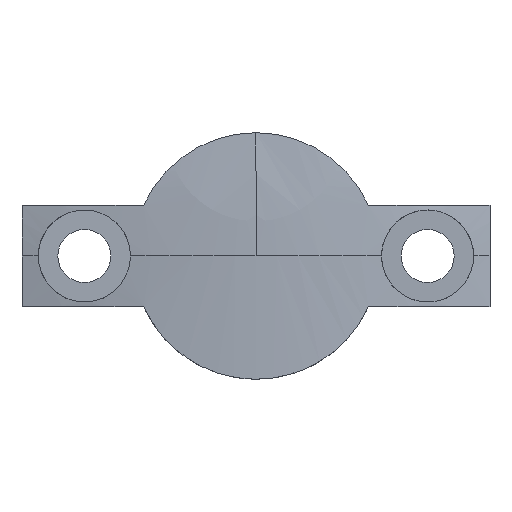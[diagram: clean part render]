
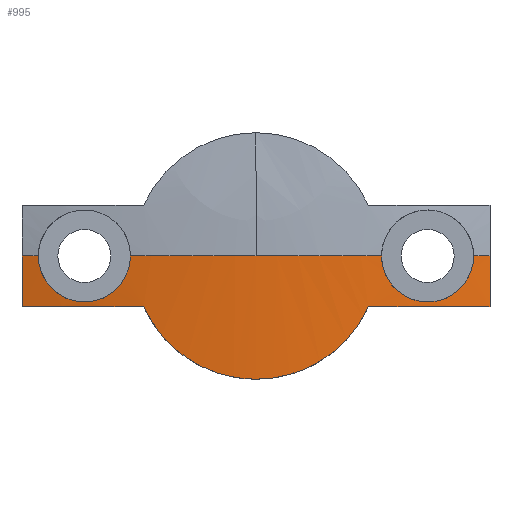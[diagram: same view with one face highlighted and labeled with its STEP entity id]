
A CAD part, top view. The second image highlights one B-rep face of the part: STEP entity #995.
In plain terms, the highlighted cylindrical face has radius 55 mm (diameter 110 mm), a partial arc.
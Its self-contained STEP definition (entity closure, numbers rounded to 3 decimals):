
#341=CARTESIAN_POINT('',(-8.05,0.,3.408));
#342=CARTESIAN_POINT('',(-8.05,-0.193,3.408));
#343=CARTESIAN_POINT('',(-8.087,-0.571,
3.402));
#344=CARTESIAN_POINT('',(-8.252,-1.125,3.378));
#345=CARTESIAN_POINT('',(-8.523,-1.637,3.336));
#346=CARTESIAN_POINT('',(-8.882,-2.08,3.279));
#347=CARTESIAN_POINT('',(-9.321,-2.449,3.205));
#348=CARTESIAN_POINT('',(-9.837,-2.732,3.114));
#349=CARTESIAN_POINT('',(-10.391,-2.907,3.011));
#350=CARTESIAN_POINT('',(-11.01,-2.971,2.888));
#351=CARTESIAN_POINT('',(-11.605,-2.907,2.763));
#352=CARTESIAN_POINT('',(-12.177,-2.728,2.636));
#353=CARTESIAN_POINT('',(-12.71,-2.429,2.512));
#354=CARTESIAN_POINT('',(-13.15,-2.047,2.405));
#355=CARTESIAN_POINT('',(-13.499,-1.601,2.318));
#356=CARTESIAN_POINT('',(-13.75,-1.114,2.254));
#357=CARTESIAN_POINT('',(-13.911,-0.581,
2.212));
#358=CARTESIAN_POINT('',(-13.95,-0.198,2.201));
#359=CARTESIAN_POINT('',(-13.95,0.,2.201));
#364=CARTESIAN_POINT('',(13.95,0.,2.201));
#365=CARTESIAN_POINT('',(13.95,-0.182,2.201));
#366=CARTESIAN_POINT('',(13.917,-0.542,2.21));
#367=CARTESIAN_POINT('',(13.764,-1.08,2.25));
#368=CARTESIAN_POINT('',(13.516,-1.573,2.314));
#369=CARTESIAN_POINT('',(13.175,-2.019,2.399));
#370=CARTESIAN_POINT('',(12.77,-2.381,2.498));
#371=CARTESIAN_POINT('',(12.307,-2.664,2.606));
#372=CARTESIAN_POINT('',(11.795,-2.857,2.721));
#373=CARTESIAN_POINT('',(11.286,-2.952,2.831));
#374=CARTESIAN_POINT('',(10.743,-2.956,2.942));
#375=CARTESIAN_POINT('',(10.201,-2.857,3.047));
#376=CARTESIAN_POINT('',(9.695,-2.664,3.14));
#377=CARTESIAN_POINT('',(9.226,-2.378,3.221));
#378=CARTESIAN_POINT('',(8.819,-2.011,3.289));
#379=CARTESIAN_POINT('',(8.487,-1.578,3.342));
#380=CARTESIAN_POINT('',(8.235,-1.077,3.38));
#381=CARTESIAN_POINT('',(8.083,-0.544,3.403));
#382=CARTESIAN_POINT('',(8.05,-0.183,3.408));
#383=CARTESIAN_POINT('',(8.05,0.,3.408));
#388=DIRECTION('',(0.,1.,0.));
#389=VECTOR('',#388,3.25);
#390=CARTESIAN_POINT('',(15.,-3.25,1.915));
#391=LINE('',#390,#389);
#395=CARTESIAN_POINT('',(0.,-7.9,4.));
#396=CARTESIAN_POINT('',(0.394,-7.9,4.));
#397=CARTESIAN_POINT('',(1.157,-7.845,3.992));
#398=CARTESIAN_POINT('',(2.301,-7.582,3.955));
#399=CARTESIAN_POINT('',(3.215,-7.243,3.909));
#400=CARTESIAN_POINT('',(4.29,-6.673,3.836));
#401=CARTESIAN_POINT('',(5.248,-5.942,3.751));
#402=CARTESIAN_POINT('',(6.04,-5.135,3.669));
#403=CARTESIAN_POINT('',(6.709,-4.221,3.59));
#404=CARTESIAN_POINT('',(7.051,-3.581,3.546));
#405=CARTESIAN_POINT('',(7.201,-3.25,3.527));
#410=DIRECTION('',(0.,-1.,0.));
#411=VECTOR('',#410,3.25);
#412=CARTESIAN_POINT('',(-15.,0.,1.915));
#413=LINE('',#412,#411);
#532=CARTESIAN_POINT('',(-7.201,-3.25,3.527));
#533=CARTESIAN_POINT('',(-7.118,-3.433,3.538));
#534=CARTESIAN_POINT('',(-6.938,-3.794,3.561));
#535=CARTESIAN_POINT('',(-6.627,-4.314,3.6));
#536=CARTESIAN_POINT('',(-6.277,-4.809,3.641));
#537=CARTESIAN_POINT('',(-5.891,-5.276,3.684));
#538=CARTESIAN_POINT('',(-5.469,-5.712,3.728));
#539=CARTESIAN_POINT('',(-5.015,-6.114,3.772));
#540=CARTESIAN_POINT('',(-4.532,-6.48,3.814));
#541=CARTESIAN_POINT('',(-4.023,-6.808,3.854));
#542=CARTESIAN_POINT('',(-3.491,-7.096,3.89));
#543=CARTESIAN_POINT('',(-2.939,-7.341,3.922));
#544=CARTESIAN_POINT('',(-2.371,-7.544,3.95));
#545=CARTESIAN_POINT('',(-1.79,-7.702,3.972));
#546=CARTESIAN_POINT('',(-1.198,-7.816,3.988));
#547=CARTESIAN_POINT('',(-0.601,-7.885,
3.998));
#548=CARTESIAN_POINT('',(-0.2,-7.9,4.));
#549=CARTESIAN_POINT('',(0.,-7.9,4.));
#575=CARTESIAN_POINT('',(0.,-3.25,-51.));
#576=DIRECTION('',(0.,-1.,0.));
#577=DIRECTION('',(-0.131,0.,0.991));
#578=AXIS2_PLACEMENT_3D('',#575,#576,#577);
#661=CARTESIAN_POINT('',(0.,-3.25,-51.));
#662=DIRECTION('',(0.,-1.,0.));
#663=DIRECTION('',(0.273,0.,0.962));
#664=AXIS2_PLACEMENT_3D('',#661,#662,#663);
#694=CARTESIAN_POINT('',(0.,0.,-51.));
#695=DIRECTION('',(0.,-1.,0.));
#696=DIRECTION('',(0.146,0.,0.989));
#697=AXIS2_PLACEMENT_3D('',#694,#695,#696);
#718=CARTESIAN_POINT('',(0.,0.,-51.));
#719=DIRECTION('',(0.,-1.,0.));
#720=DIRECTION('',(0.273,0.,0.962));
#721=AXIS2_PLACEMENT_3D('',#718,#719,#720);
#769=CARTESIAN_POINT('',(0.,0.,-51.));
#770=DIRECTION('',(0.,-1.,0.));
#771=DIRECTION('',(-0.254,0.,0.967));
#772=AXIS2_PLACEMENT_3D('',#769,#770,#771);
#809=CARTESIAN_POINT('',(0.,0.,-51.));
#810=DIRECTION('',(0.,-1.,0.));
#811=DIRECTION('',(0.,0.,1.));
#812=AXIS2_PLACEMENT_3D('',#809,#810,#811);
#863=CARTESIAN_POINT('',(8.05,0.,3.408));
#864=CARTESIAN_POINT('',(0.,0.,4.));
#865=VERTEX_POINT('',#863);
#866=VERTEX_POINT('',#864);
#873=CARTESIAN_POINT('',(15.,0.,1.915));
#874=VERTEX_POINT('',#873);
#875=CARTESIAN_POINT('',(13.95,0.,2.201));
#876=VERTEX_POINT('',#875);
#881=CARTESIAN_POINT('',(-7.201,-3.25,3.527));
#882=VERTEX_POINT('',#881);
#883=VERTEX_POINT('',#549);
#884=VERTEX_POINT('',#405);
#897=CARTESIAN_POINT('',(15.,-3.25,1.915));
#898=VERTEX_POINT('',#897);
#899=CARTESIAN_POINT('',(-15.,-3.25,1.915));
#900=VERTEX_POINT('',#899);
#901=CARTESIAN_POINT('',(-15.,0.,1.915));
#902=VERTEX_POINT('',#901);
#907=CARTESIAN_POINT('',(-8.05,0.,3.408));
#908=VERTEX_POINT('',#907);
#909=CARTESIAN_POINT('',(-13.95,0.,2.201));
#910=VERTEX_POINT('',#909);
#965=CARTESIAN_POINT('',(0.,0.,-51.));
#966=DIRECTION('',(0.,-1.,0.));
#967=DIRECTION('',(0.,0.,1.));
#968=AXIS2_PLACEMENT_3D('',#965,#966,#967);
#969=CYLINDRICAL_SURFACE('',#968,55.);
#971=ORIENTED_EDGE('',*,*,#970,.F.);
#973=ORIENTED_EDGE('',*,*,#972,.F.);
#975=ORIENTED_EDGE('',*,*,#974,.F.);
#976=ORIENTED_EDGE('',*,*,#957,.F.);
#978=ORIENTED_EDGE('',*,*,#977,.F.);
#980=ORIENTED_EDGE('',*,*,#979,.F.);
#982=ORIENTED_EDGE('',*,*,#981,.T.);
#984=ORIENTED_EDGE('',*,*,#983,.F.);
#986=ORIENTED_EDGE('',*,*,#985,.F.);
#988=ORIENTED_EDGE('',*,*,#987,.T.);
#990=ORIENTED_EDGE('',*,*,#989,.F.);
#992=ORIENTED_EDGE('',*,*,#991,.F.);
#993=EDGE_LOOP('',(#971,#973,#975,#976,#978,#980,#982,#984,#986,#988,#990,
#992));
#994=FACE_OUTER_BOUND('',#993,.F.);
#360=B_SPLINE_CURVE_WITH_KNOTS('',3,(#341,#342,#343,#344,#345,#346,#347,#348,
#349,#350,#351,#352,#353,#354,#355,#356,#357,#358,#359),.UNSPECIFIED.,.F.,.F.,
(4,1,1,1,1,1,1,1,1,1,1,1,1,1,1,1,4),(0.,0.063,0.125,0.188,0.25,
0.313,0.375,0.438,0.5,0.563,0.625,0.688,0.75,0.813,
0.875,0.938,1.),.UNSPECIFIED.);
#384=B_SPLINE_CURVE_WITH_KNOTS('',3,(#364,#365,#366,#367,#368,#369,#370,#371,
#372,#373,#374,#375,#376,#377,#378,#379,#380,#381,#382,#383),.UNSPECIFIED.,.F.,
.F.,(4,1,1,1,1,1,1,1,1,1,1,1,1,1,1,1,1,4),(0.,0.059,
0.118,0.176,0.235,0.294,
0.353,0.412,0.471,0.529,
0.588,0.647,0.706,0.765,
0.824,0.882,0.941,1.),.UNSPECIFIED.);
#406=B_SPLINE_CURVE_WITH_KNOTS('',3,(#395,#396,#397,#398,#399,#400,#401,#402,
#403,#404,#405),.UNSPECIFIED.,.F.,.F.,(4,1,1,1,1,1,1,1,4),(0.,0.125,0.25,
0.375,0.5,0.625,0.75,0.875,1.),.UNSPECIFIED.);
#550=B_SPLINE_CURVE_WITH_KNOTS('',3,(#532,#533,#534,#535,#536,#537,#538,#539,
#540,#541,#542,#543,#544,#545,#546,#547,#548,#549),.UNSPECIFIED.,.F.,.F.,(4,1,1,
1,1,1,1,1,1,1,1,1,1,1,1,4),(0.,0.067,0.133,0.2,
0.267,0.333,0.4,0.467,0.533,
0.6,0.667,0.733,0.8,0.867,
0.933,1.),.UNSPECIFIED.);
#579=CIRCLE('',#578,55.);
#665=CIRCLE('',#664,55.);
#698=CIRCLE('',#697,55.);
#722=CIRCLE('',#721,55.);
#773=CIRCLE('',#772,55.);
#813=CIRCLE('',#812,55.);
#957=EDGE_CURVE('',#876,#865,#384,.T.);
#970=EDGE_CURVE('',#908,#910,#360,.T.);
#972=EDGE_CURVE('',#866,#908,#813,.T.);
#974=EDGE_CURVE('',#865,#866,#698,.T.);
#977=EDGE_CURVE('',#874,#876,#722,.T.);
#979=EDGE_CURVE('',#898,#874,#391,.T.);
#981=EDGE_CURVE('',#898,#884,#665,.T.);
#983=EDGE_CURVE('',#883,#884,#406,.T.);
#985=EDGE_CURVE('',#882,#883,#550,.T.);
#987=EDGE_CURVE('',#882,#900,#579,.T.);
#989=EDGE_CURVE('',#902,#900,#413,.T.);
#991=EDGE_CURVE('',#910,#902,#773,.T.);
#995=ADVANCED_FACE('',(#994),#969,.T.);
